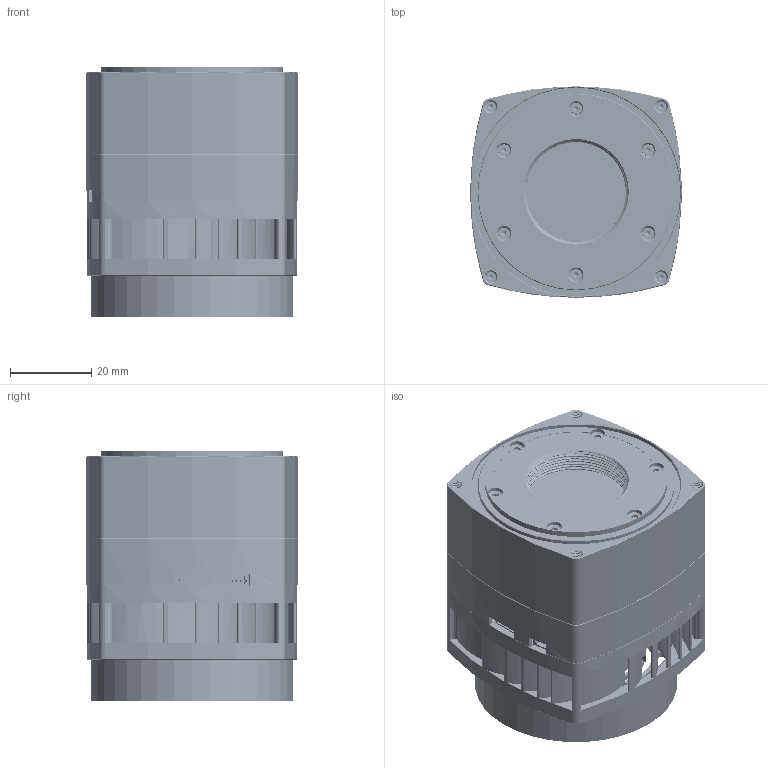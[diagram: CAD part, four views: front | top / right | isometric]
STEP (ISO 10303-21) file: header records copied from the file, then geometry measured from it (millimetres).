
FILE_DESCRIPTION(/* description */ (''),/* implementation_level */ '2;1');
FILE_NAME(/* name */ 'STP-MJ-(MJ042MR-GP-P6-BSI)-REV1.stp',/* time_stamp */ '2019-09-13T16:03:32+02:00',/* author */ (''),/* organization */ (''),/* preprocessor_version */ 'ST-DEVELOPER v16',/* originating_system */ 'SIEMENS PLM Software NX 11.0',/* authorisation */ '');
FILE_SCHEMA (('AUTOMOTIVE_DESIGN { 1 0 10303 214 3 1 1 1 }'));
Products named in the file (17): GSENSE2020-GLASS; GSENSE2020-BODY; SCREW-M1.6X20-TX; MECH-CM5130-FF; MECH-CM5130-FT; 1054500101_stp; SM03B-SRSS-TB_step; SCREW-M1.6X6-TX; SCREW-M1.6X12-TX; HD-COP; O-RING-FKM-37x1; CMOUNT; FLT-SPH-AR2X-D35X1; FH-303; GSENSE2020-ASSEMBLY; MECH-FAN-ASSM; ASSEBMLY-MJ
Assembly tree (27 placements, depth 3):
  ASSEBMLY-MJ
    FH-303
    FLT-SPH-AR2X-D35X1
    CMOUNT
    O-RING-FKM-37x1
    HD-COP
    MECH-FAN-ASSM
      MECH-CM5130-FT
      MECH-CM5130-FF
      SCREW-M1.6X20-TX  x4
    SCREW-M1.6X12-TX  x4
    SCREW-M1.6X6-TX  x6
    SM03B-SRSS-TB_step
    1054500101_stp
    GSENSE2020-ASSEMBLY
      GSENSE2020-BODY
      GSENSE2020-GLASS
Bounding box: 52.1 x 52.1 x 61.75 mm (x, y, z)
Volume: 56412.8 mm3; surface area: 60206.5 mm2
Topology: 25 solids, 25 shells, 2347 faces, 5964 edges, 3868 vertices
Faces by surface type: cylinder 991, plane 898, bspline 235, cone 211, torus 6, sphere 4, extrusion 2
Full cylindrical faces by diameter (mm): 0.3 x153, 1.3 x10, 1.6 x32, 2 x4, 2.5 x60, 2.95 x14, 3.2 x4, 3.7 x6, 18 x1, 33.8 x1, 34.1 x1, 35 x1, 35.04 x1, 36 x1, 36.2 x1, 39.2 x1, 42.8 x1, 45 x1, 47.8 x1, 48.5 x1, 49.85 x1, 51.5 x1
Entity records: 150864 total; most frequent: CARTESIAN_POINT 102143, ORIENTED_EDGE 9754, DIRECTION 9629, EDGE_CURVE 4877, AXIS2_PLACEMENT_3D 3698, VERTEX_POINT 3314, EDGE_LOOP 2619, VECTOR 2233
